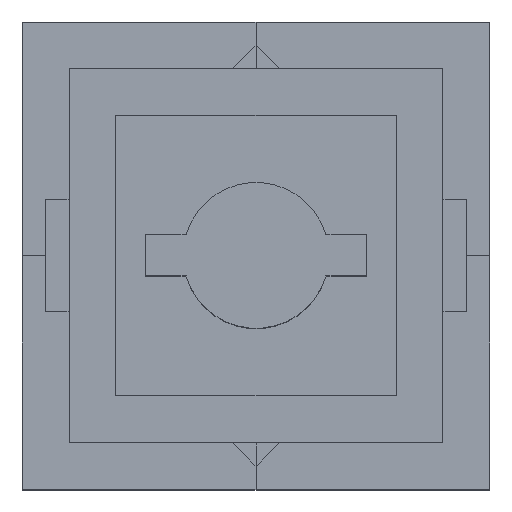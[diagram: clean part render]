
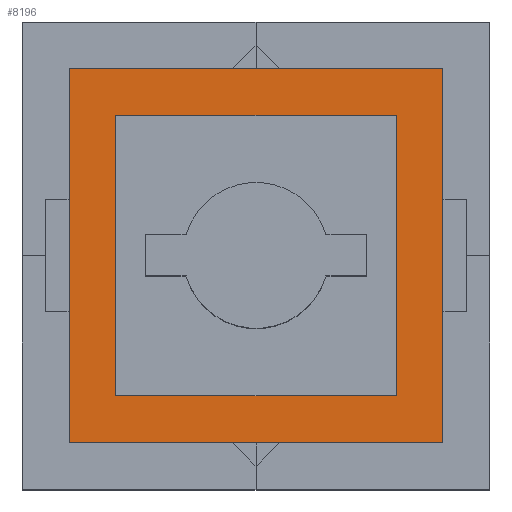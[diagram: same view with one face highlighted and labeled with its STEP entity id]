
A CAD part, top view. The second image highlights one B-rep face of the part: STEP entity #8196.
In plain terms, the highlighted planar face has unit normal (0, 0, 1).
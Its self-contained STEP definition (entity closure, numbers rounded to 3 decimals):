
#7681 = VERTEX_POINT('',#7682);
#7682 = CARTESIAN_POINT('',(-5.08,-5.08,8.458));
#7689 = PLANE('',#7690);
#7690 = AXIS2_PLACEMENT_3D('',#7691,#7692,#7693);
#7691 = CARTESIAN_POINT('',(-5.08,-5.08,4.648));
#7692 = DIRECTION('',(0.,1.,0.));
#7693 = DIRECTION('',(1.,0.,0.));
#7701 = PLANE('',#7702);
#7702 = AXIS2_PLACEMENT_3D('',#7703,#7704,#7705);
#7703 = CARTESIAN_POINT('',(-5.08,5.08,4.648));
#7704 = DIRECTION('',(1.,0.,0.));
#7705 = DIRECTION('',(0.,-1.,0.));
#7713 = EDGE_CURVE('',#7681,#7714,#7716,.T.);
#7714 = VERTEX_POINT('',#7715);
#7715 = CARTESIAN_POINT('',(5.08,-5.08,8.458));
#7716 = SURFACE_CURVE('',#7717,(#7721,#7728),.PCURVE_S1.);
#7717 = LINE('',#7718,#7719);
#7718 = CARTESIAN_POINT('',(-5.08,-5.08,8.458));
#7719 = VECTOR('',#7720,1.);
#7720 = DIRECTION('',(1.,0.,0.));
#7721 = PCURVE('',#7689,#7722);
#7722 = DEFINITIONAL_REPRESENTATION('',(#7723),#7727);
#7723 = LINE('',#7724,#7725);
#7724 = CARTESIAN_POINT('',(0.,-3.81));
#7725 = VECTOR('',#7726,1.);
#7726 = DIRECTION('',(1.,0.));
#7727 = ( GEOMETRIC_REPRESENTATION_CONTEXT(2) 
PARAMETRIC_REPRESENTATION_CONTEXT() REPRESENTATION_CONTEXT('2D SPACE',''
  ) );
#7728 = PCURVE('',#7729,#7734);
#7729 = PLANE('',#7730);
#7730 = AXIS2_PLACEMENT_3D('',#7731,#7732,#7733);
#7731 = CARTESIAN_POINT('',(0.,0.,
    8.458));
#7732 = DIRECTION('',(0.,0.,1.));
#7733 = DIRECTION('',(1.,0.,0.));
#7734 = DEFINITIONAL_REPRESENTATION('',(#7735),#7739);
#7735 = LINE('',#7736,#7737);
#7736 = CARTESIAN_POINT('',(-5.08,-5.08));
#7737 = VECTOR('',#7738,1.);
#7738 = DIRECTION('',(1.,0.));
#7739 = ( GEOMETRIC_REPRESENTATION_CONTEXT(2) 
PARAMETRIC_REPRESENTATION_CONTEXT() REPRESENTATION_CONTEXT('2D SPACE',''
  ) );
#7757 = PLANE('',#7758);
#7758 = AXIS2_PLACEMENT_3D('',#7759,#7760,#7761);
#7759 = CARTESIAN_POINT('',(5.08,-5.08,4.648));
#7760 = DIRECTION('',(-1.,0.,0.));
#7761 = DIRECTION('',(0.,1.,0.));
#7801 = VERTEX_POINT('',#7802);
#7802 = CARTESIAN_POINT('',(-5.08,5.08,8.458));
#7816 = PLANE('',#7817);
#7817 = AXIS2_PLACEMENT_3D('',#7818,#7819,#7820);
#7818 = CARTESIAN_POINT('',(5.08,5.08,4.648));
#7819 = DIRECTION('',(0.,-1.,0.));
#7820 = DIRECTION('',(-1.,0.,0.));
#7828 = EDGE_CURVE('',#7801,#7681,#7829,.T.);
#7829 = SURFACE_CURVE('',#7830,(#7834,#7841),.PCURVE_S1.);
#7830 = LINE('',#7831,#7832);
#7831 = CARTESIAN_POINT('',(-5.08,5.08,8.458));
#7832 = VECTOR('',#7833,1.);
#7833 = DIRECTION('',(0.,-1.,0.));
#7834 = PCURVE('',#7701,#7835);
#7835 = DEFINITIONAL_REPRESENTATION('',(#7836),#7840);
#7836 = LINE('',#7837,#7838);
#7837 = CARTESIAN_POINT('',(0.,-3.81));
#7838 = VECTOR('',#7839,1.);
#7839 = DIRECTION('',(1.,0.));
#7840 = ( GEOMETRIC_REPRESENTATION_CONTEXT(2) 
PARAMETRIC_REPRESENTATION_CONTEXT() REPRESENTATION_CONTEXT('2D SPACE',''
  ) );
#7841 = PCURVE('',#7729,#7842);
#7842 = DEFINITIONAL_REPRESENTATION('',(#7843),#7847);
#7843 = LINE('',#7844,#7845);
#7844 = CARTESIAN_POINT('',(-5.08,5.08));
#7845 = VECTOR('',#7846,1.);
#7846 = DIRECTION('',(0.,-1.));
#7847 = ( GEOMETRIC_REPRESENTATION_CONTEXT(2) 
PARAMETRIC_REPRESENTATION_CONTEXT() REPRESENTATION_CONTEXT('2D SPACE',''
  ) );
#7989 = EDGE_CURVE('',#7714,#7990,#7992,.T.);
#7990 = VERTEX_POINT('',#7991);
#7991 = CARTESIAN_POINT('',(5.08,5.08,8.458));
#7992 = SURFACE_CURVE('',#7993,(#7997,#8004),.PCURVE_S1.);
#7993 = LINE('',#7994,#7995);
#7994 = CARTESIAN_POINT('',(5.08,-5.08,8.458));
#7995 = VECTOR('',#7996,1.);
#7996 = DIRECTION('',(0.,1.,0.));
#7997 = PCURVE('',#7757,#7998);
#7998 = DEFINITIONAL_REPRESENTATION('',(#7999),#8003);
#7999 = LINE('',#8000,#8001);
#8000 = CARTESIAN_POINT('',(0.,-3.81));
#8001 = VECTOR('',#8002,1.);
#8002 = DIRECTION('',(1.,0.));
#8003 = ( GEOMETRIC_REPRESENTATION_CONTEXT(2) 
PARAMETRIC_REPRESENTATION_CONTEXT() REPRESENTATION_CONTEXT('2D SPACE',''
  ) );
#8004 = PCURVE('',#7729,#8005);
#8005 = DEFINITIONAL_REPRESENTATION('',(#8006),#8010);
#8006 = LINE('',#8007,#8008);
#8007 = CARTESIAN_POINT('',(5.08,-5.08));
#8008 = VECTOR('',#8009,1.);
#8009 = DIRECTION('',(0.,1.));
#8010 = ( GEOMETRIC_REPRESENTATION_CONTEXT(2) 
PARAMETRIC_REPRESENTATION_CONTEXT() REPRESENTATION_CONTEXT('2D SPACE',''
  ) );
#8196 = ADVANCED_FACE('',(#8197,#8223),#7729,.T.);
#8197 = FACE_BOUND('',#8198,.T.);
#8198 = EDGE_LOOP('',(#8199,#8200,#8201,#8222));
#8199 = ORIENTED_EDGE('',*,*,#7713,.T.);
#8200 = ORIENTED_EDGE('',*,*,#7989,.T.);
#8201 = ORIENTED_EDGE('',*,*,#8202,.T.);
#8202 = EDGE_CURVE('',#7990,#7801,#8203,.T.);
#8203 = SURFACE_CURVE('',#8204,(#8208,#8215),.PCURVE_S1.);
#8204 = LINE('',#8205,#8206);
#8205 = CARTESIAN_POINT('',(5.08,5.08,8.458));
#8206 = VECTOR('',#8207,1.);
#8207 = DIRECTION('',(-1.,0.,0.));
#8208 = PCURVE('',#7729,#8209);
#8209 = DEFINITIONAL_REPRESENTATION('',(#8210),#8214);
#8210 = LINE('',#8211,#8212);
#8211 = CARTESIAN_POINT('',(5.08,5.08));
#8212 = VECTOR('',#8213,1.);
#8213 = DIRECTION('',(-1.,0.));
#8214 = ( GEOMETRIC_REPRESENTATION_CONTEXT(2) 
PARAMETRIC_REPRESENTATION_CONTEXT() REPRESENTATION_CONTEXT('2D SPACE',''
  ) );
#8215 = PCURVE('',#7816,#8216);
#8216 = DEFINITIONAL_REPRESENTATION('',(#8217),#8221);
#8217 = LINE('',#8218,#8219);
#8218 = CARTESIAN_POINT('',(0.,-3.81));
#8219 = VECTOR('',#8220,1.);
#8220 = DIRECTION('',(1.,0.));
#8221 = ( GEOMETRIC_REPRESENTATION_CONTEXT(2) 
PARAMETRIC_REPRESENTATION_CONTEXT() REPRESENTATION_CONTEXT('2D SPACE',''
  ) );
#8222 = ORIENTED_EDGE('',*,*,#7828,.T.);
#8223 = FACE_BOUND('',#8224,.T.);
#8224 = EDGE_LOOP('',(#8225,#8255,#8283,#8311));
#8225 = ORIENTED_EDGE('',*,*,#8226,.F.);
#8226 = EDGE_CURVE('',#8227,#8229,#8231,.T.);
#8227 = VERTEX_POINT('',#8228);
#8228 = CARTESIAN_POINT('',(-3.81,-3.81,8.458));
#8229 = VERTEX_POINT('',#8230);
#8230 = CARTESIAN_POINT('',(3.81,-3.81,8.458));
#8231 = SURFACE_CURVE('',#8232,(#8236,#8243),.PCURVE_S1.);
#8232 = LINE('',#8233,#8234);
#8233 = CARTESIAN_POINT('',(-5.08,-3.81,8.458));
#8234 = VECTOR('',#8235,1.);
#8235 = DIRECTION('',(1.,0.,0.));
#8236 = PCURVE('',#7729,#8237);
#8237 = DEFINITIONAL_REPRESENTATION('',(#8238),#8242);
#8238 = LINE('',#8239,#8240);
#8239 = CARTESIAN_POINT('',(-5.08,-3.81));
#8240 = VECTOR('',#8241,1.);
#8241 = DIRECTION('',(1.,0.));
#8242 = ( GEOMETRIC_REPRESENTATION_CONTEXT(2) 
PARAMETRIC_REPRESENTATION_CONTEXT() REPRESENTATION_CONTEXT('2D SPACE',''
  ) );
#8243 = PCURVE('',#8244,#8249);
#8244 = PLANE('',#8245);
#8245 = AXIS2_PLACEMENT_3D('',#8246,#8247,#8248);
#8246 = CARTESIAN_POINT('',(-5.08,-3.81,4.648));
#8247 = DIRECTION('',(0.,1.,0.));
#8248 = DIRECTION('',(1.,0.,0.));
#8249 = DEFINITIONAL_REPRESENTATION('',(#8250),#8254);
#8250 = LINE('',#8251,#8252);
#8251 = CARTESIAN_POINT('',(0.,-3.81));
#8252 = VECTOR('',#8253,1.);
#8253 = DIRECTION('',(1.,0.));
#8254 = ( GEOMETRIC_REPRESENTATION_CONTEXT(2) 
PARAMETRIC_REPRESENTATION_CONTEXT() REPRESENTATION_CONTEXT('2D SPACE',''
  ) );
#8255 = ORIENTED_EDGE('',*,*,#8256,.F.);
#8256 = EDGE_CURVE('',#8257,#8227,#8259,.T.);
#8257 = VERTEX_POINT('',#8258);
#8258 = CARTESIAN_POINT('',(-3.81,3.81,8.458));
#8259 = SURFACE_CURVE('',#8260,(#8264,#8271),.PCURVE_S1.);
#8260 = LINE('',#8261,#8262);
#8261 = CARTESIAN_POINT('',(-3.81,5.08,8.458));
#8262 = VECTOR('',#8263,1.);
#8263 = DIRECTION('',(0.,-1.,0.));
#8264 = PCURVE('',#7729,#8265);
#8265 = DEFINITIONAL_REPRESENTATION('',(#8266),#8270);
#8266 = LINE('',#8267,#8268);
#8267 = CARTESIAN_POINT('',(-3.81,5.08));
#8268 = VECTOR('',#8269,1.);
#8269 = DIRECTION('',(0.,-1.));
#8270 = ( GEOMETRIC_REPRESENTATION_CONTEXT(2) 
PARAMETRIC_REPRESENTATION_CONTEXT() REPRESENTATION_CONTEXT('2D SPACE',''
  ) );
#8271 = PCURVE('',#8272,#8277);
#8272 = PLANE('',#8273);
#8273 = AXIS2_PLACEMENT_3D('',#8274,#8275,#8276);
#8274 = CARTESIAN_POINT('',(-3.81,5.08,4.648));
#8275 = DIRECTION('',(1.,0.,0.));
#8276 = DIRECTION('',(0.,-1.,0.));
#8277 = DEFINITIONAL_REPRESENTATION('',(#8278),#8282);
#8278 = LINE('',#8279,#8280);
#8279 = CARTESIAN_POINT('',(0.,-3.81));
#8280 = VECTOR('',#8281,1.);
#8281 = DIRECTION('',(1.,0.));
#8282 = ( GEOMETRIC_REPRESENTATION_CONTEXT(2) 
PARAMETRIC_REPRESENTATION_CONTEXT() REPRESENTATION_CONTEXT('2D SPACE',''
  ) );
#8283 = ORIENTED_EDGE('',*,*,#8284,.F.);
#8284 = EDGE_CURVE('',#8285,#8257,#8287,.T.);
#8285 = VERTEX_POINT('',#8286);
#8286 = CARTESIAN_POINT('',(3.81,3.81,8.458));
#8287 = SURFACE_CURVE('',#8288,(#8292,#8299),.PCURVE_S1.);
#8288 = LINE('',#8289,#8290);
#8289 = CARTESIAN_POINT('',(5.08,3.81,8.458));
#8290 = VECTOR('',#8291,1.);
#8291 = DIRECTION('',(-1.,0.,0.));
#8292 = PCURVE('',#7729,#8293);
#8293 = DEFINITIONAL_REPRESENTATION('',(#8294),#8298);
#8294 = LINE('',#8295,#8296);
#8295 = CARTESIAN_POINT('',(5.08,3.81));
#8296 = VECTOR('',#8297,1.);
#8297 = DIRECTION('',(-1.,0.));
#8298 = ( GEOMETRIC_REPRESENTATION_CONTEXT(2) 
PARAMETRIC_REPRESENTATION_CONTEXT() REPRESENTATION_CONTEXT('2D SPACE',''
  ) );
#8299 = PCURVE('',#8300,#8305);
#8300 = PLANE('',#8301);
#8301 = AXIS2_PLACEMENT_3D('',#8302,#8303,#8304);
#8302 = CARTESIAN_POINT('',(5.08,3.81,4.648));
#8303 = DIRECTION('',(0.,-1.,0.));
#8304 = DIRECTION('',(-1.,0.,0.));
#8305 = DEFINITIONAL_REPRESENTATION('',(#8306),#8310);
#8306 = LINE('',#8307,#8308);
#8307 = CARTESIAN_POINT('',(0.,-3.81));
#8308 = VECTOR('',#8309,1.);
#8309 = DIRECTION('',(1.,0.));
#8310 = ( GEOMETRIC_REPRESENTATION_CONTEXT(2) 
PARAMETRIC_REPRESENTATION_CONTEXT() REPRESENTATION_CONTEXT('2D SPACE',''
  ) );
#8311 = ORIENTED_EDGE('',*,*,#8312,.F.);
#8312 = EDGE_CURVE('',#8229,#8285,#8313,.T.);
#8313 = SURFACE_CURVE('',#8314,(#8318,#8325),.PCURVE_S1.);
#8314 = LINE('',#8315,#8316);
#8315 = CARTESIAN_POINT('',(3.81,-5.08,8.458));
#8316 = VECTOR('',#8317,1.);
#8317 = DIRECTION('',(0.,1.,0.));
#8318 = PCURVE('',#7729,#8319);
#8319 = DEFINITIONAL_REPRESENTATION('',(#8320),#8324);
#8320 = LINE('',#8321,#8322);
#8321 = CARTESIAN_POINT('',(3.81,-5.08));
#8322 = VECTOR('',#8323,1.);
#8323 = DIRECTION('',(0.,1.));
#8324 = ( GEOMETRIC_REPRESENTATION_CONTEXT(2) 
PARAMETRIC_REPRESENTATION_CONTEXT() REPRESENTATION_CONTEXT('2D SPACE',''
  ) );
#8325 = PCURVE('',#8326,#8331);
#8326 = PLANE('',#8327);
#8327 = AXIS2_PLACEMENT_3D('',#8328,#8329,#8330);
#8328 = CARTESIAN_POINT('',(3.81,-5.08,4.648));
#8329 = DIRECTION('',(-1.,0.,0.));
#8330 = DIRECTION('',(0.,1.,0.));
#8331 = DEFINITIONAL_REPRESENTATION('',(#8332),#8336);
#8332 = LINE('',#8333,#8334);
#8333 = CARTESIAN_POINT('',(0.,-3.81));
#8334 = VECTOR('',#8335,1.);
#8335 = DIRECTION('',(1.,0.));
#8336 = ( GEOMETRIC_REPRESENTATION_CONTEXT(2) 
PARAMETRIC_REPRESENTATION_CONTEXT() REPRESENTATION_CONTEXT('2D SPACE',''
  ) );
